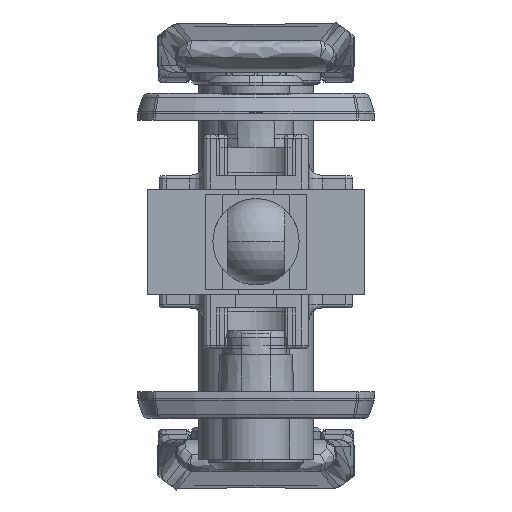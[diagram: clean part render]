
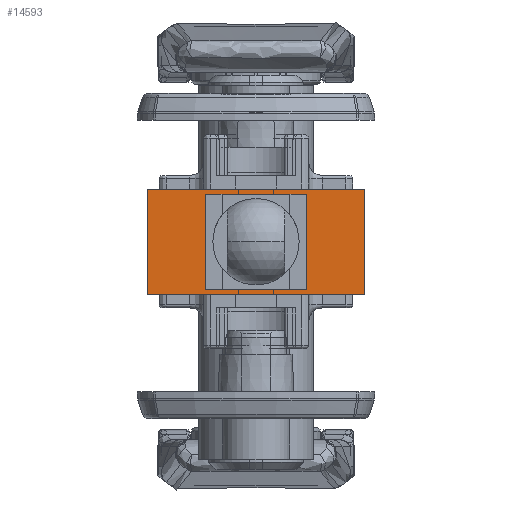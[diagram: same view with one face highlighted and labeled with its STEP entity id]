
A CAD part, front view. The second image highlights one B-rep face of the part: STEP entity #14593.
In plain terms, the highlighted planar face has unit normal (0, -1, 0).
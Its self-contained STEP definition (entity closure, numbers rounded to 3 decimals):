
#234 = DIRECTION ( 'NONE',  ( 0., 0., -1. ) ) ;
#635 = CARTESIAN_POINT ( 'NONE',  ( 7., -199.25, 6.25 ) ) ;
#729 = DIRECTION ( 'NONE',  ( 0., 1., 0. ) ) ;
#738 = CARTESIAN_POINT ( 'NONE',  ( -16., -199.25, -7.75 ) ) ;
#742 = DIRECTION ( 'NONE',  ( 0., 0., 1. ) ) ;
#1573 = VERTEX_POINT ( 'NONE', #12150 ) ;
#1857 = ORIENTED_EDGE ( 'NONE', *, *, #52896, .F. ) ;
#2532 = DIRECTION ( 'NONE',  ( 1., 0., 0. ) ) ;
#3418 = EDGE_CURVE ( 'NONE', #22782, #40211, #49557, .T. ) ;
#4438 = ORIENTED_EDGE ( 'NONE', *, *, #11957, .T. ) ;
#5056 = ORIENTED_EDGE ( 'NONE', *, *, #29624, .F. ) ;
#5090 = VERTEX_POINT ( 'NONE', #38628 ) ;
#5255 = DIRECTION ( 'NONE',  ( 1., 0., 0. ) ) ;
#5648 = LINE ( 'NONE', #46718, #36830 ) ;
#6781 = VERTEX_POINT ( 'NONE', #635 ) ;
#7251 = VECTOR ( 'NONE', #2532, 1000. ) ;
#7490 = LINE ( 'NONE', #36724, #31924 ) ;
#8102 = VECTOR ( 'NONE', #742, 1000. ) ;
#9872 = EDGE_CURVE ( 'NONE', #52773, #1573, #7490, .T. ) ;
#9951 = DIRECTION ( 'NONE',  ( 0., 0., -1. ) ) ;
#10595 = VERTEX_POINT ( 'NONE', #30895 ) ;
#11550 = EDGE_CURVE ( 'NONE', #10595, #5090, #30945, .T. ) ;
#11957 = EDGE_CURVE ( 'NONE', #10595, #22782, #49049, .T. ) ;
#12150 = CARTESIAN_POINT ( 'NONE',  ( 7., -199.25, -6.25 ) ) ;
#13736 = CARTESIAN_POINT ( 'NONE',  ( -7., -199.25, -6.25 ) ) ;
#13996 = LINE ( 'NONE', #30341, #49208 ) ;
#14547 = EDGE_CURVE ( 'NONE', #6781, #44650, #32877, .T. ) ;
#14593 = ADVANCED_FACE ( 'NONE', ( #41207, #16838 ), #45243, .F. ) ;
#16257 = VECTOR ( 'NONE', #5255, 1000. ) ;
#16838 = FACE_OUTER_BOUND ( 'NONE', #26101, .T. ) ;
#18431 = EDGE_LOOP ( 'NONE', ( #5056, #30232, #29895, #23033 ) ) ;
#19723 = ORIENTED_EDGE ( 'NONE', *, *, #3418, .T. ) ;
#20610 = DIRECTION ( 'NONE',  ( 0., 0., 1. ) ) ;
#20877 = CARTESIAN_POINT ( 'NONE',  ( -16., -199.25, 7.75 ) ) ;
#22782 = VERTEX_POINT ( 'NONE', #44026 ) ;
#23033 = ORIENTED_EDGE ( 'NONE', *, *, #9872, .F. ) ;
#25393 = LINE ( 'NONE', #46054, #8102 ) ;
#25521 = ORIENTED_EDGE ( 'NONE', *, *, #11550, .F. ) ;
#26101 = EDGE_LOOP ( 'NONE', ( #19723, #1857, #25521, #4438 ) ) ;
#26844 = DIRECTION ( 'NONE',  ( 0., 0., -1. ) ) ;
#29624 = EDGE_CURVE ( 'NONE', #44650, #52773, #5648, .T. ) ;
#29895 = ORIENTED_EDGE ( 'NONE', *, *, #37867, .F. ) ;
#30232 = ORIENTED_EDGE ( 'NONE', *, *, #14547, .F. ) ;
#30341 = CARTESIAN_POINT ( 'NONE',  ( 16., -199.25, 7.75 ) ) ;
#30895 = CARTESIAN_POINT ( 'NONE',  ( -16., -199.25, 7.75 ) ) ;
#30945 = LINE ( 'NONE', #38982, #7251 ) ;
#31924 = VECTOR ( 'NONE', #52575, 1000. ) ;
#32877 = LINE ( 'NONE', #40940, #45552 ) ;
#34371 = AXIS2_PLACEMENT_3D ( 'NONE', #20877, #729, #20610 ) ;
#36074 = CARTESIAN_POINT ( 'NONE',  ( 16., -199.25, -7.75 ) ) ;
#36724 = CARTESIAN_POINT ( 'NONE',  ( -7., -199.25, -6.25 ) ) ;
#36830 = VECTOR ( 'NONE', #9951, 1000. ) ;
#37699 = CARTESIAN_POINT ( 'NONE',  ( -7., -199.25, 6.25 ) ) ;
#37867 = EDGE_CURVE ( 'NONE', #1573, #6781, #25393, .T. ) ;
#38070 = VECTOR ( 'NONE', #234, 1000. ) ;
#38628 = CARTESIAN_POINT ( 'NONE',  ( 16., -199.25, 7.75 ) ) ;
#38982 = CARTESIAN_POINT ( 'NONE',  ( -16., -199.25, 7.75 ) ) ;
#40211 = VERTEX_POINT ( 'NONE', #36074 ) ;
#40940 = CARTESIAN_POINT ( 'NONE',  ( 7., -199.25, 6.25 ) ) ;
#41207 = FACE_BOUND ( 'NONE', #18431, .T. ) ;
#44026 = CARTESIAN_POINT ( 'NONE',  ( -16., -199.25, -7.75 ) ) ;
#44650 = VERTEX_POINT ( 'NONE', #37699 ) ;
#45243 = PLANE ( 'NONE',  #34371 ) ;
#45552 = VECTOR ( 'NONE', #49282, 1000. ) ;
#45557 = CARTESIAN_POINT ( 'NONE',  ( -16., -199.25, 7.75 ) ) ;
#46054 = CARTESIAN_POINT ( 'NONE',  ( 7., -199.25, 6.25 ) ) ;
#46718 = CARTESIAN_POINT ( 'NONE',  ( -7., -199.25, -6.25 ) ) ;
#49049 = LINE ( 'NONE', #45557, #38070 ) ;
#49208 = VECTOR ( 'NONE', #26844, 1000. ) ;
#49282 = DIRECTION ( 'NONE',  ( -1., 0., 0. ) ) ;
#49557 = LINE ( 'NONE', #738, #16257 ) ;
#52575 = DIRECTION ( 'NONE',  ( 1., 0., 0. ) ) ;
#52773 = VERTEX_POINT ( 'NONE', #13736 ) ;
#52896 = EDGE_CURVE ( 'NONE', #5090, #40211, #13996, .T. ) ;
